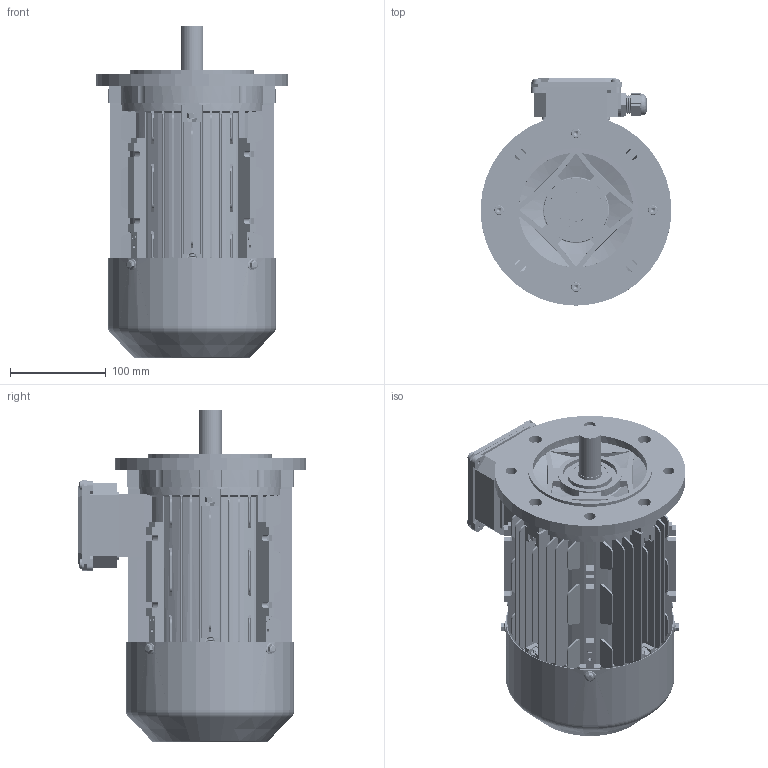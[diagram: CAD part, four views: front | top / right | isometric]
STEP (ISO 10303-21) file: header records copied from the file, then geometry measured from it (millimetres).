
FILE_DESCRIPTION (( 'STEP AP203' ), '1' );
FILE_NAME ('ME3-90LB5 3D.STEP', '2024-06-06T08:50:57', ( 'User' ), ( 'China' ), 'SwSTEP 2.0', 'SolidWorks 2018', '' );
FILE_SCHEMA (( 'CONFIG_CONTROL_DESIGN' ));
Length unit declared in the file: millimetre
Products named in the file (19): 8.014.09013 ME2 90B5; hexagon socket head cap screws gb_GB_FASTENER_SCREWS_HSHCS M6X30-S; 8.034.09005ME2-90L儂褲; hexagon socket head cap screws gb_GB_FASTENER_SCREWS_HSHCS M6X35-S; hex nuts, style 2-grades ab gb_GB_HEXAGON_TYPE13 M6 Normal Style-C; 8.014.09012加长后盖（铁）; ME3-90LB5  3D; 8.306.09004ME2-90瑞欶; deep groove ball bearings gb_Rolling bearings 6205 GB 276-94; hex flange bolts-heavy grade b gb_GB_FASTENER_BOLT_HFBB M5X10-C; 8.200.09005ME2L 蛌粣; wave single coil spring lock washers gb_GB_FASTENER_WASHER_WSLW 6; MS63-71諉盄碟菁釱; cross recessed pan head screws gb_GB_CROSS_SCREWS_TYPE1 M5X8-8  H type-S; 蹟杶郋M20X1.5; MS63-71諉盄碟裔; 蹟簸M20X1.5; 蚐猾37X25X7; 黑芛20X1.5
Assembly tree (44 placements, depth 2):
  ME3-90LB5  3D
    8.034.09005ME2-90L儂褲
    8.014.09012加长后盖（铁）
    deep groove ball bearings gb_Rolling bearings 6205 GB 276-94  x2
    8.200.09005ME2L 蛌粣
    MS63-71諉盄碟菁釱
    蹟杶郋M20X1.5
    蹟簸M20X1.5
    黑芛20X1.5
    hexagon socket head cap screws gb_GB_FASTENER_SCREWS_HSHCS M6X30-S  x4
    hex nuts, style 2-grades ab gb_GB_HEXAGON_TYPE13 M6 Normal Style-C  x7
    8.306.09004ME2-90瑞欶
    hex flange bolts-heavy grade b gb_GB_FASTENER_BOLT_HFBB M5X10-C  x4
    wave single coil spring lock washers gb_GB_FASTENER_WASHER_WSLW 6  x4
    cross recessed pan head screws gb_GB_CROSS_SCREWS_TYPE1 M5X8-8  H type-S  x8
    MS63-71諉盄碟裔
    蚐猾37X25X7
    8.014.09013 ME2 90B5
    hexagon socket head cap screws gb_GB_FASTENER_SCREWS_HSHCS M6X35-S  x4
Bounding box: 200 x 238 x 347.62 mm (x, y, z)
Volume: 1423501.5 mm3; surface area: 856441.6 mm2
Topology: 53 solids, 53 shells, 6352 faces, 15873 edges, 9544 vertices
Faces by surface type: plane 2266, cone 2049, cylinder 1628, bspline 170, torus 159, sphere 80
Entity records: 134409 total; most frequent: CARTESIAN_POINT 43461, ORIENTED_EDGE 19506, DIRECTION 16926, EDGE_CURVE 9753, VERTEX_POINT 6234, VECTOR 5654, LINE 5654, AXIS2_PLACEMENT_3D 5636
